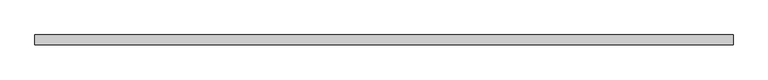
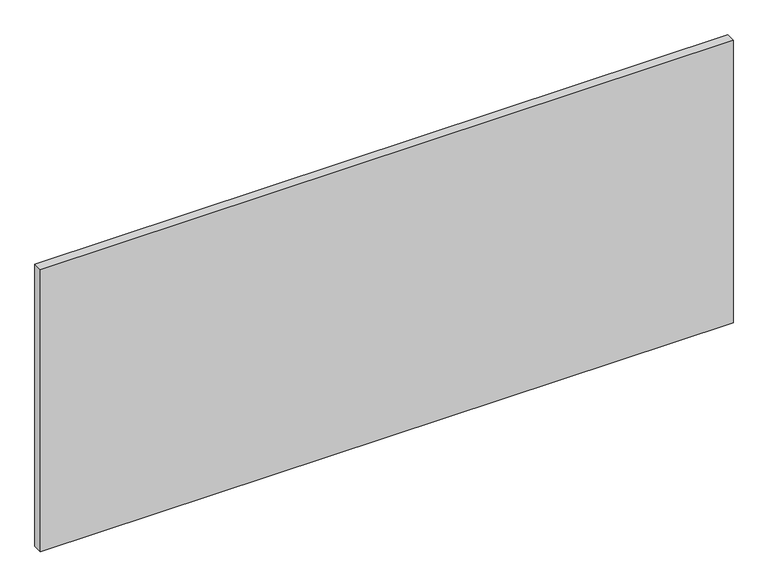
"""IFC4 building model written with IfcOpenShell, lengths in millimetres: plate geometry, 系统嵌板 : 玻璃."""

from ifc_helpers import new_model, si_unit, origin, origin_with_axes, place, context, project, spatial, polyline, outline, extrude, source, transform, mapped, element, save


def plate_3115bb5f(model_context):
    return source(origin(), model_context, "Body", "SweptSolid", [
        extrude(outline(polyline([(894.1666667, -12.5), (-894.1666667, -12.5), (-894.1666667, 12.5), (894.1666667, 12.5), (894.1666667, -12.5)])), origin_with_axes(), (0.0, 0.0, 1.0), 770.0),
    ])


if __name__ == "__main__":
    model = new_model("IFC4")
    model_context = context("Model", 3, world=origin())
    ifc_project = project(units=[si_unit("LENGTHUNIT", "METRE", prefix="MILLI")], contexts=[model_context])
    site = spatial("IfcSite", under=ifc_project)
    building = spatial("IfcBuilding", under=site)
    placement = place(None, origin())
    plate_shape = plate_3115bb5f(model_context)
    element("IfcPlate", 1, ObjectType="系统嵌板 : 玻璃", at=placement, inside=building, context=model_context, shape_type="MappedRepresentation", body=[
        mapped(plate_shape, transform((0.0, 0.0, 0.0), x_axis=(1.0, 0.0, 0.0), y_axis=(0.0, 1.0, 0.0), z_axis=(0.0, 0.0, 1.0))),
    ])
    save(model, "model.ifc")
